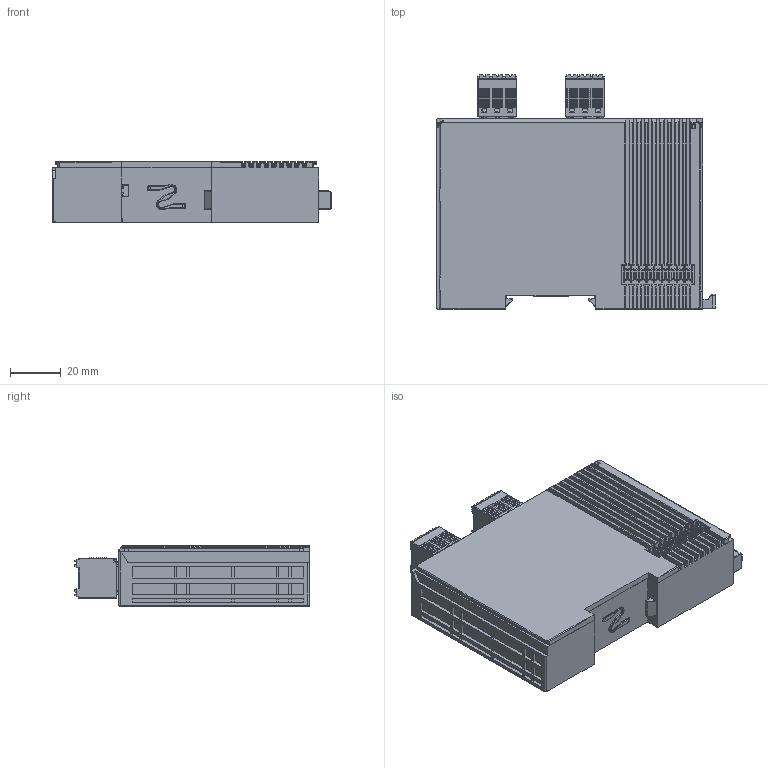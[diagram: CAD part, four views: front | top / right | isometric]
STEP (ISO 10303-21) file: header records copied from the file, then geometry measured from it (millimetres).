
FILE_DESCRIPTION((''),'2;1');
FILE_NAME('PRT0009','2024-05-22T16:26:17',('Administrator'),(''),'CREO PARAMETRIC BY PTC INC, 2018050','CREO PARAMETRIC BY PTC INC, 2018050','');
FILE_SCHEMA(('CONFIG_CONTROL_DESIGN'));
Products named in the file (1): PRT0009
Bounding box: 110 x 92.3 x 24 mm (x, y, z)
Volume: 163651.3 mm3; surface area: 48554.3 mm2
Topology: 5 solids, 9 shells, 4799 faces, 12709 edges, 7796 vertices
Faces by surface type: plane 2667, cylinder 1438, bspline 287, sphere 224, torus 143, cone 40
Entity records: 158347 total; most frequent: CARTESIAN_POINT 42360, ORIENTED_EDGE 24954, DIRECTION 23077, EDGE_CURVE 12507, VECTOR 8395, LINE 8395, VERTEX_POINT 7796, AXIS2_PLACEMENT_3D 7341
